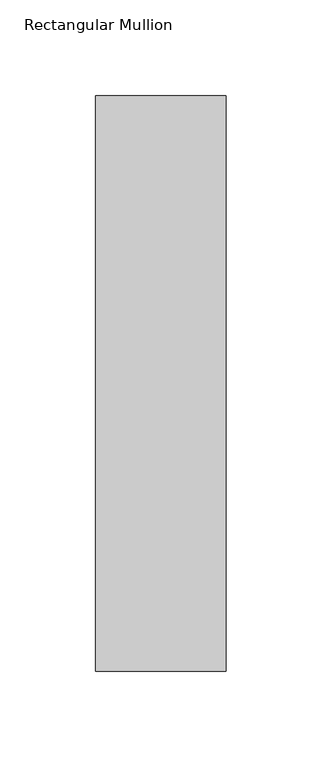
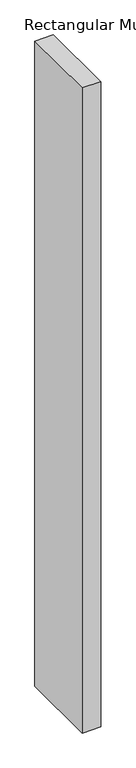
"""IFC4 building model written with IfcOpenShell, lengths in millimetres: member geometry, Rectangular Mullion : DucoSun Cubic Design louvre 300."""

from ifc_helpers import new_model, si_unit, frame, origin, place, context, project, spatial, polyline, outline, extrude, source, transform, mapped, element, save


def rectangular_mullion_314c2c16(model_context):
    return source(origin(), model_context, "Body", "SweptSolid", [
        extrude(outline(polyline([(34.0, 300.0), (34.0, 0.0), (-34.0, 0.0), (-34.0, 300.0), (34.0, 300.0)])), frame((0.0, 0.0, -2500.0), z_axis=(0.0, 0.0, 1.0), x_axis=(1.0, 0.0, 0.0)), (0.0, 0.0, 1.0), 2500.0),
    ])


if __name__ == "__main__":
    model = new_model("IFC4")
    model_context = context("Model", 3, world=origin())
    ifc_project = project(units=[si_unit("LENGTHUNIT", "METRE", prefix="MILLI")], contexts=[model_context])
    site = spatial("IfcSite", under=ifc_project)
    building = spatial("IfcBuilding", under=site)
    placement = place(None, origin())
    rectangular_mullion_shape = rectangular_mullion_314c2c16(model_context)
    element("IfcMember", 1, ObjectType="Rectangular Mullion : DucoSun Cubic Design louvre 300", at=placement, inside=building, context=model_context, shape_type="MappedRepresentation", body=[
        mapped(rectangular_mullion_shape, transform((0.0, 0.0, 0.0), x_axis=(1.0, 0.0, 0.0), y_axis=(0.0, 1.0, 0.0), z_axis=(0.0, 0.0, 1.0))),
    ])
    save(model, "model.ifc")
